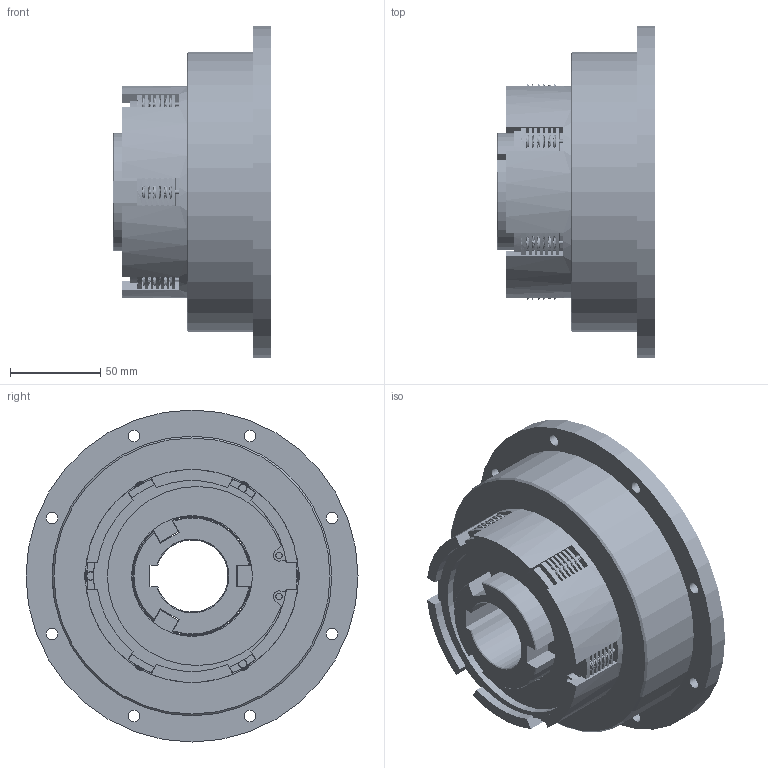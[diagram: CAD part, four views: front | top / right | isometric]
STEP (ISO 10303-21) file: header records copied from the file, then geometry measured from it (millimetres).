
FILE_DESCRIPTION(/* description */ (''),/* implementation_level */ '2;1');
FILE_NAME(/* name */ 'T:\INVENTOR\DISEGNI\03_Friz_Oleod_Pneum_Cil_Stat\03_40 FPL-N\03_40_004_01 FPL_N04\C\03_40_004_02 FPL-N04C@STEP.stp',/* time_stamp */ '2019-11-22T10:24:41+01:00',/* author */ ('w.sartori'),/* organization */ (''),/* preprocessor_version */ 'ST-DEVELOPER v16.13',/* originating_system */ 'Autodesk Inventor 2018',/* authorisation */ '');
FILE_SCHEMA (('AUTOMOTIVE_DESIGN { 1 0 10303 214 3 1 1 }'));
Products named in the file (1): 03_40_004_02 FPL-N04C
Bounding box: 88 x 184 x 184 mm (x, y, z)
Volume: 985019.7 mm3; surface area: 281811.7 mm2
Topology: 2 solids, 24 shells, 1121 faces, 2926 edges, 1936 vertices
Faces by surface type: plane 493, cylinder 290, bspline 244, cone 62, torus 32
Full cylindrical faces by diameter (mm): 2 x6, 2.75 x42, 3.5 x5, 4.917 x8, 6 x8, 6.5 x16, 8.566 x1, 10 x24, 10.5 x8, 67 x1, 70 x8, 72 x1, 80 x1, 85 x2, 87 x1, 95 x1, 97 x4, 100 x6, 105.8 x1, 118 x1, 120 x2, 123 x1, 132 x1, 135 x4, 155 x1, 184 x1
Entity records: 69893 total; most frequent: CARTESIAN_POINT 42555, DIRECTION 5320, ORIENTED_EDGE 5298, EDGE_CURVE 2635, AXIS2_PLACEMENT_3D 2205, VERTEX_POINT 1868, EDGE_LOOP 1615, CIRCLE 1292
